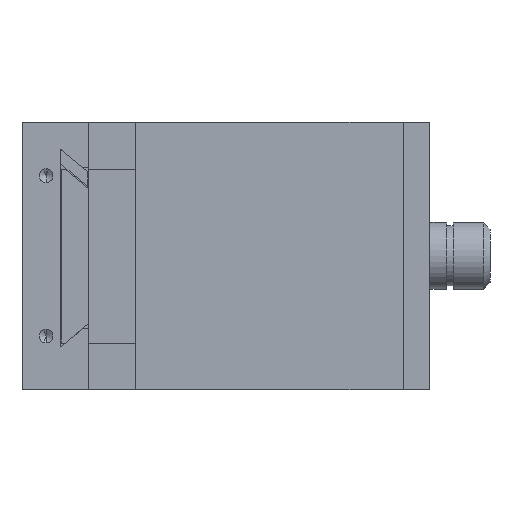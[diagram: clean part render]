
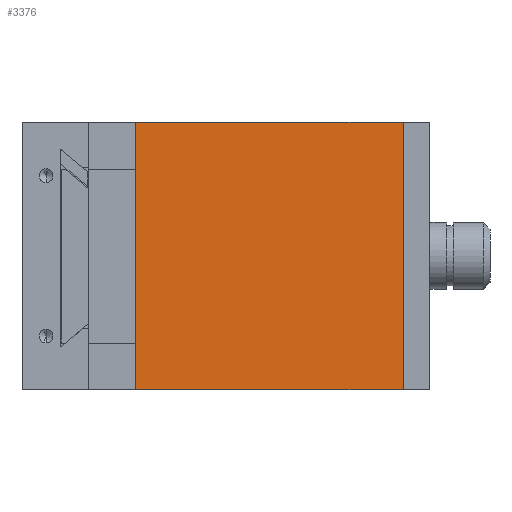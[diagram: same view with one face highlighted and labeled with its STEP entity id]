
A CAD part, front view. The second image highlights one B-rep face of the part: STEP entity #3376.
In plain terms, the highlighted planar face has unit normal (0, -1, 0) as drawn and (0, 1, 0) by its records, which use the part's own axes.
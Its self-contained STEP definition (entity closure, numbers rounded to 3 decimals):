
#2760=DIRECTION('',(-1.,0.,0.));
#2761=VECTOR('',#2760,40.);
#2762=CARTESIAN_POINT('',(0.,0.,0.));
#2763=LINE('',#2762,#2761);
#2764=DIRECTION('',(0.,0.,-1.));
#2765=VECTOR('',#2764,40.);
#2766=CARTESIAN_POINT('',(0.,0.,40.));
#2767=LINE('',#2766,#2765);
#2768=DIRECTION('',(1.,0.,0.));
#2769=VECTOR('',#2768,40.);
#2770=CARTESIAN_POINT('',(-40.,0.,40.));
#2771=LINE('',#2770,#2769);
#2772=DIRECTION('',(0.,0.,1.));
#2773=VECTOR('',#2772,40.);
#2774=CARTESIAN_POINT('',(-40.,0.,0.));
#2775=LINE('',#2774,#2773);
#3024=CARTESIAN_POINT('',(0.,0.,0.));
#3025=CARTESIAN_POINT('',(-40.,0.,0.));
#3026=VERTEX_POINT('',#3024);
#3027=VERTEX_POINT('',#3025);
#3028=CARTESIAN_POINT('',(-40.,0.,40.));
#3029=VERTEX_POINT('',#3028);
#3030=CARTESIAN_POINT('',(0.,0.,40.));
#3031=VERTEX_POINT('',#3030);
#3364=CARTESIAN_POINT('',(-20.,0.,20.));
#3365=DIRECTION('',(0.,1.,0.));
#3366=DIRECTION('',(1.,0.,0.));
#3367=AXIS2_PLACEMENT_3D('',#3364,#3365,#3366);
#3368=PLANE('',#3367);
#3369=ORIENTED_EDGE('',*,*,#3233,.F.);
#3370=ORIENTED_EDGE('',*,*,#3069,.F.);
#3372=ORIENTED_EDGE('',*,*,#3371,.F.);
#3373=ORIENTED_EDGE('',*,*,#3219,.F.);
#3374=EDGE_LOOP('',(#3369,#3370,#3372,#3373));
#3375=FACE_OUTER_BOUND('',#3374,.F.);
#3376=ADVANCED_FACE('',(#3375),#3368,.T.);
#3069=EDGE_CURVE('',#3031,#3026,#2767,.T.);
#3219=EDGE_CURVE('',#3027,#3029,#2775,.T.);
#3233=EDGE_CURVE('',#3026,#3027,#2763,.T.);
#3371=EDGE_CURVE('',#3029,#3031,#2771,.T.);
